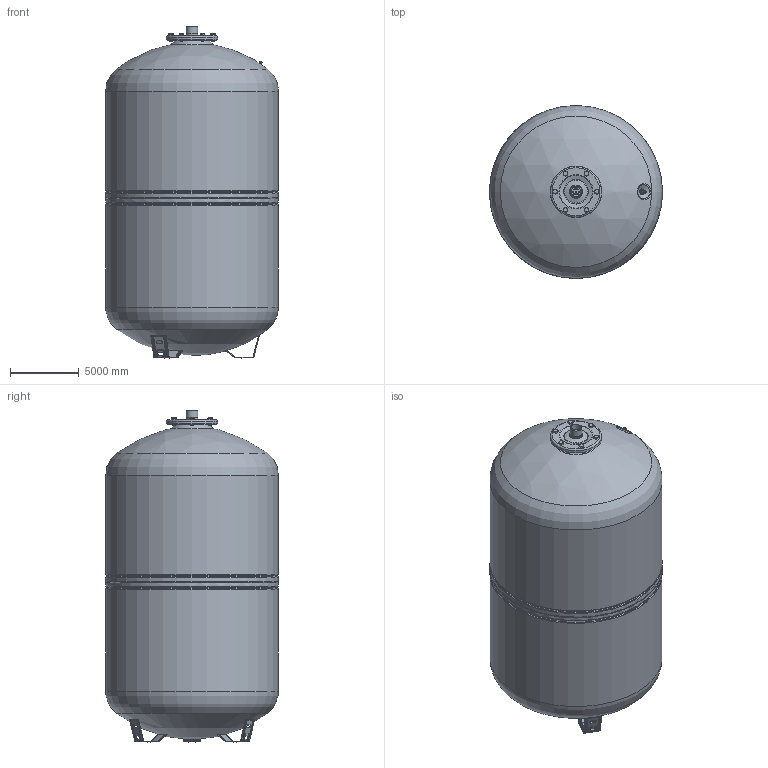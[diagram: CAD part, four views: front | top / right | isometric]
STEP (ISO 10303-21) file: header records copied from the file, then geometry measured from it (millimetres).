
FILE_DESCRIPTION(('STEP AP214'), '1');
FILE_NAME('WRV-150', '', ('UNSPECIFIED'), ('UNSPECIFIED'), 'ASCON STEP Converter 1.3', 'ASCON Math Kernel', '');
FILE_SCHEMA(('AUTOMOTIVE_DESIGN { 1 0 10303 214 3 1 1}'));
Length unit declared in the file: millimetre
Assembly tree (1 placements, depth 2):
  (unnamed)
    (unnamed)
Bounding box: 12590.13 x 12581.56 x 24180.8 mm (x, y, z)
Volume: 2517849593583.8 mm3; surface area: 1030902890.1 mm2
Topology: 1 solids, 1 shells, 818 faces, 1945 edges, 1166 vertices
Faces by surface type: cylinder 347, torus 240, bspline 196, cone 33, sphere 2
Full cylindrical faces by diameter (mm): 101.6 x7, 139.7 x1, 203.2 x7, 355.599 x6, 688.34 x1, 844.55 x1, 850.9 x1, 3556 x1, 12573 x4
Entity records: 33754 total; most frequent: CARTESIAN_POINT 8459, DIRECTION 4086, ORIENTED_EDGE 3734, EDGE_CURVE 1867, AXIS2_PLACEMENT_3D 1680, VERTEX_POINT 1165, CIRCLE 1056, EDGE_LOOP 956
